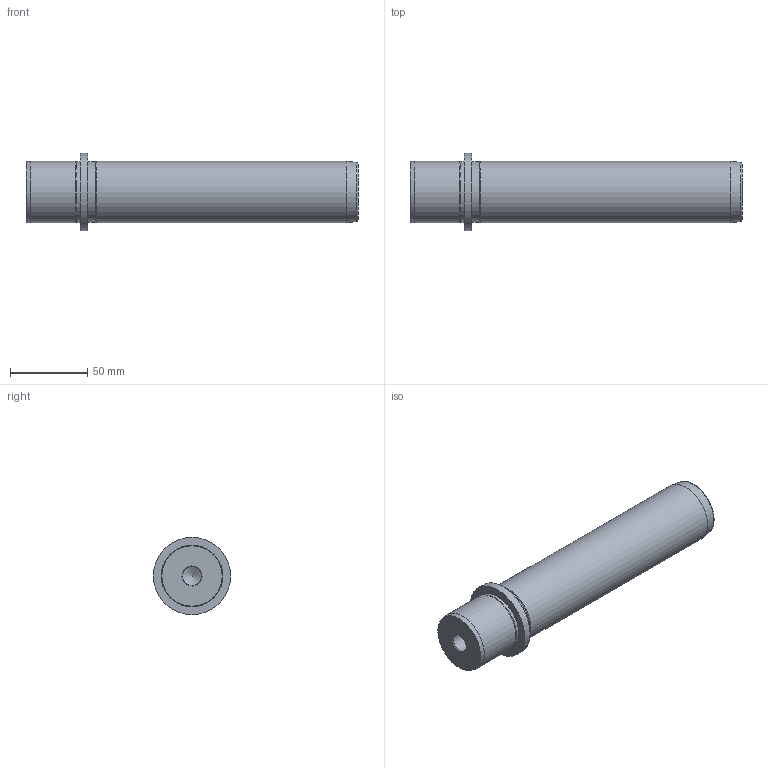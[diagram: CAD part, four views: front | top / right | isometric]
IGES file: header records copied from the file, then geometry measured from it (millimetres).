
Global section: file name: CE40180.ipt; native system: Autodesk Inventor 2021; preprocessor: unknown; author: SM; date: 20211217.134250; units: millimetre
Bounding box: 215 x 50 x 50 mm (x, y, z)
Volume: 269565 mm3; surface area: 31982.9 mm2
Topology: 1 solids, 1 shells, 17 faces, 35 edges, 22 vertices
Faces by surface type: cylinder 5, cone 4, plane 4, revolution 3, bspline 1
Full cylindrical faces by diameter (mm): 39 x2, 40 x2, 50 x1
